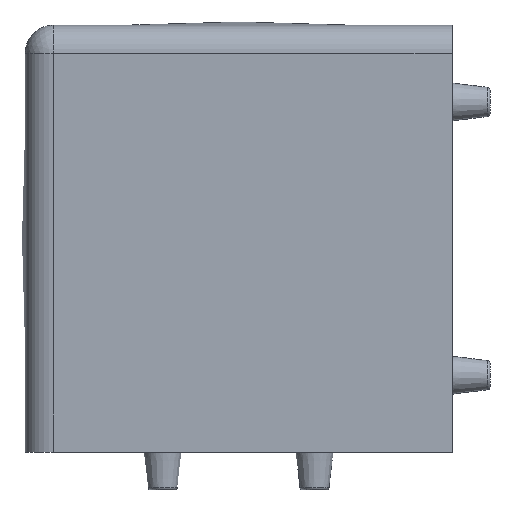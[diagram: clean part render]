
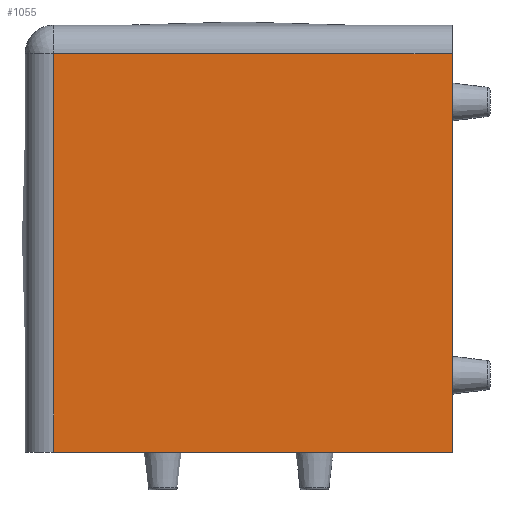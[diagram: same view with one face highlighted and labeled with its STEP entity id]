
A CAD part, left-side view. The second image highlights one B-rep face of the part: STEP entity #1055.
In plain terms, the highlighted planar face has unit normal (-1, 0, 0).
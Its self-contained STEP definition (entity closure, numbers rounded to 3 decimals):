
#54=PLANE('',#1234);
#121=LINE('',#1822,#176);
#122=LINE('',#1827,#177);
#128=LINE('',#1847,#183);
#149=LINE('',#1990,#204);
#176=VECTOR('',#1376,10.);
#177=VECTOR('',#1381,10.);
#183=VECTOR('',#1403,1000.);
#204=VECTOR('',#1574,1000.);
#272=FACE_OUTER_BOUND('',#346,.T.);
#346=EDGE_LOOP('',(#938,#939,#940,#941));
#488=VERTEX_POINT('',#1815);
#491=VERTEX_POINT('',#1820);
#493=VERTEX_POINT('',#1825);
#499=VERTEX_POINT('',#1846);
#602=EDGE_CURVE('',#491,#488,#121,.T.);
#604=EDGE_CURVE('',#493,#491,#122,.T.);
#614=EDGE_CURVE('',#488,#499,#128,.T.);
#687=EDGE_CURVE('',#493,#499,#149,.T.);
#938=ORIENTED_EDGE('',*,*,#604,.F.);
#939=ORIENTED_EDGE('',*,*,#687,.T.);
#940=ORIENTED_EDGE('',*,*,#614,.F.);
#941=ORIENTED_EDGE('',*,*,#602,.F.);
#1055=ADVANCED_FACE('',(#272),#54,.T.);
#1234=AXIS2_PLACEMENT_3D('',#1989,#1572,#1573);
#1376=DIRECTION('',(0.,-1.,0.));
#1381=DIRECTION('',(0.,0.,1.));
#1403=DIRECTION('',(0.,0.,-1.));
#1572=DIRECTION('center_axis',(-1.,0.,0.));
#1573=DIRECTION('ref_axis',(0.,1.,0.));
#1574=DIRECTION('',(0.,-1.,0.));
#1815=CARTESIAN_POINT('',(-22.5,-22.5,19.5));
#1820=CARTESIAN_POINT('',(-22.5,19.5,19.5));
#1822=CARTESIAN_POINT('',(-22.5,-22.5,19.5));
#1825=CARTESIAN_POINT('',(-22.5,19.5,-22.5));
#1827=CARTESIAN_POINT('',(-22.5,19.5,21.));
#1846=CARTESIAN_POINT('',(-22.5,-22.5,-22.5));
#1847=CARTESIAN_POINT('',(-22.5,-22.5,-22.5));
#1989=CARTESIAN_POINT('Origin',(-22.5,-22.5,22.5));
#1990=CARTESIAN_POINT('',(-22.5,-5.25,-22.5));
